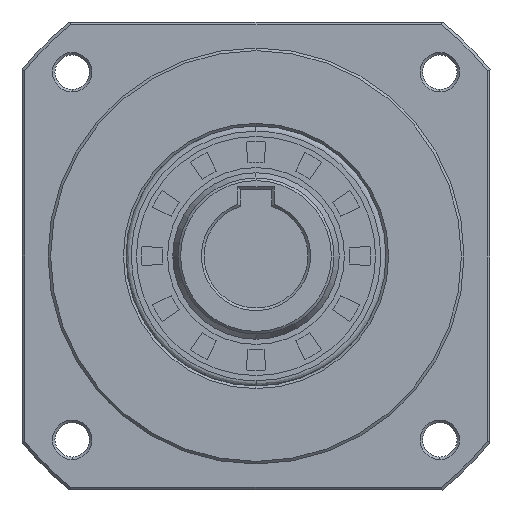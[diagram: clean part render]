
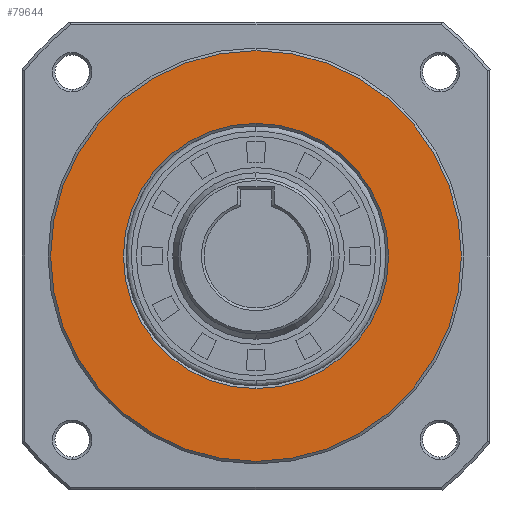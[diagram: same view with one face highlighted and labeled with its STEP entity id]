
A CAD part, left-side view. The second image highlights one B-rep face of the part: STEP entity #79644.
In plain terms, the highlighted planar face has unit normal (-1, 0, 0).
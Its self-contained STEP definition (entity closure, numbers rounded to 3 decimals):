
#782 = DIRECTION ( 'NONE',  ( 0., 0., -1. ) ) ;
#827 = DIRECTION ( 'NONE',  ( -1., 0., 0. ) ) ;
#3243 = AXIS2_PLACEMENT_3D ( 'NONE', #55962, #56651, #33303 ) ;
#3281 = CARTESIAN_POINT ( 'NONE',  ( 0., 0., 39.5 ) ) ;
#3781 = AXIS2_PLACEMENT_3D ( 'NONE', #68899, #15887, #782 ) ;
#6251 = CIRCLE ( 'NONE', #77034, 39.5 ) ;
#8534 = DIRECTION ( 'NONE',  ( 0., 0., 1. ) ) ;
#8899 = ORIENTED_EDGE ( 'NONE', *, *, #19340, .T. ) ;
#10973 = EDGE_CURVE ( 'NONE', #61773, #23480, #46936, .T. ) ;
#15887 = DIRECTION ( 'NONE',  ( -1., 0., 0. ) ) ;
#17102 = CARTESIAN_POINT ( 'NONE',  ( 0., 0., 25.5 ) ) ;
#19340 = EDGE_CURVE ( 'NONE', #23480, #61773, #6251, .T. ) ;
#19881 = FACE_BOUND ( 'NONE', #20566, .T. ) ;
#20566 = EDGE_LOOP ( 'NONE', ( #67269, #61342 ) ) ;
#23480 = VERTEX_POINT ( 'NONE', #3281 ) ;
#24690 = DIRECTION ( 'NONE',  ( 1., 0., 0. ) ) ;
#24720 = EDGE_CURVE ( 'NONE', #49573, #43673, #90295, .T. ) ;
#24995 = DIRECTION ( 'NONE',  ( 0., 0., -1. ) ) ;
#32663 = CARTESIAN_POINT ( 'NONE',  ( 0., -39.974, 39.974 ) ) ;
#33303 = DIRECTION ( 'NONE',  ( 0., 0., 1. ) ) ;
#33733 = ORIENTED_EDGE ( 'NONE', *, *, #10973, .T. ) ;
#33835 = EDGE_CURVE ( 'NONE', #43673, #49573, #53740, .T. ) ;
#43673 = VERTEX_POINT ( 'NONE', #87812 ) ;
#46553 = CARTESIAN_POINT ( 'NONE',  ( 0., 0., 0. ) ) ;
#46936 = CIRCLE ( 'NONE', #3781, 39.5 ) ;
#47983 = PLANE ( 'NONE',  #98449 ) ;
#49573 = VERTEX_POINT ( 'NONE', #17102 ) ;
#50837 = FACE_OUTER_BOUND ( 'NONE', #55345, .T. ) ;
#53740 = CIRCLE ( 'NONE', #69034, 25.5 ) ;
#55345 = EDGE_LOOP ( 'NONE', ( #33733, #8899 ) ) ;
#55962 = CARTESIAN_POINT ( 'NONE',  ( 0., 0., 0. ) ) ;
#56651 = DIRECTION ( 'NONE',  ( -1., 0., 0. ) ) ;
#61342 = ORIENTED_EDGE ( 'NONE', *, *, #33835, .F. ) ;
#61773 = VERTEX_POINT ( 'NONE', #84660 ) ;
#67269 = ORIENTED_EDGE ( 'NONE', *, *, #24720, .F. ) ;
#68899 = CARTESIAN_POINT ( 'NONE',  ( 0., 0., 0. ) ) ;
#69034 = AXIS2_PLACEMENT_3D ( 'NONE', #46553, #827, #8534 ) ;
#74081 = DIRECTION ( 'NONE',  ( 0., 0., -1. ) ) ;
#77034 = AXIS2_PLACEMENT_3D ( 'NONE', #86493, #81500, #74081 ) ;
#79644 = ADVANCED_FACE ( 'NONE', ( #19881, #50837 ), #47983, .F. ) ;
#81500 = DIRECTION ( 'NONE',  ( -1., 0., 0. ) ) ;
#84660 = CARTESIAN_POINT ( 'NONE',  ( 0., 0., -39.5 ) ) ;
#86493 = CARTESIAN_POINT ( 'NONE',  ( 0., 0., 0. ) ) ;
#87812 = CARTESIAN_POINT ( 'NONE',  ( 0., 0., -25.5 ) ) ;
#90295 = CIRCLE ( 'NONE', #3243, 25.5 ) ;
#98449 = AXIS2_PLACEMENT_3D ( 'NONE', #32663, #24690, #24995 ) ;
